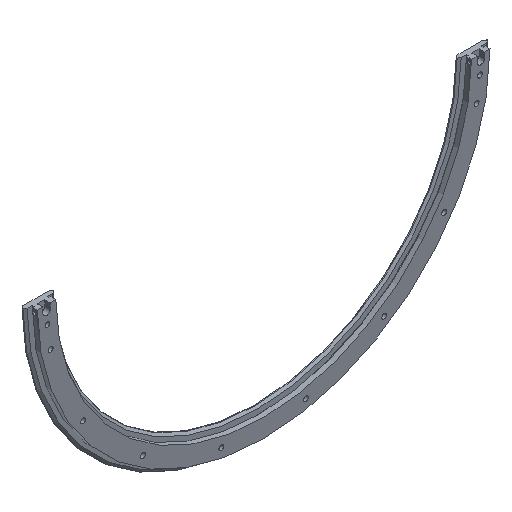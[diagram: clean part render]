
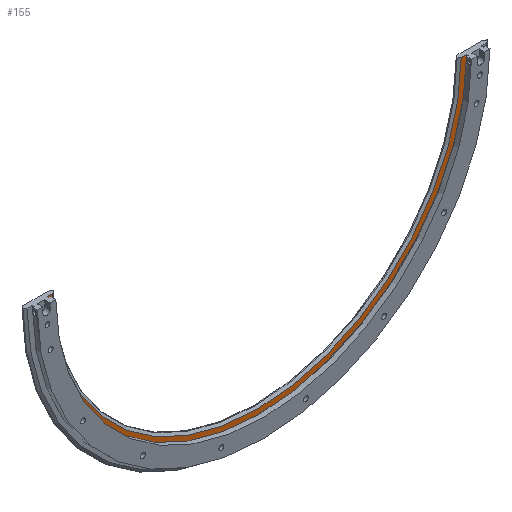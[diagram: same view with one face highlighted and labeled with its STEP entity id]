
A CAD part, isometric view. The second image highlights one B-rep face of the part: STEP entity #155.
In plain terms, the highlighted planar face has unit normal (0, -1, 0).
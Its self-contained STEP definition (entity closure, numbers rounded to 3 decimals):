
#155 = ADVANCED_FACE( '', ( #377 ), #378, .T. );
#377 = FACE_OUTER_BOUND( '', #624, .T. );
#378 = PLANE( '', #625 );
#624 = EDGE_LOOP( '', ( #1199, #1200, #1201, #1202 ) );
#625 = AXIS2_PLACEMENT_3D( '', #1203, #1204, #1205 );
#1199 = ORIENTED_EDGE( '', *, *, #1496, .T. );
#1200 = ORIENTED_EDGE( '', *, *, #1339, .T. );
#1201 = ORIENTED_EDGE( '', *, *, #1497, .F. );
#1202 = ORIENTED_EDGE( '', *, *, #1498, .T. );
#1203 = CARTESIAN_POINT( '', ( -287.914, 9.5, 0. ) );
#1204 = DIRECTION( '', ( 0., -1., 0. ) );
#1205 = DIRECTION( '', ( 0., 0., -1. ) );
#1339 = EDGE_CURVE( '', #1549, #1547, #1550, .T. );
#1496 = EDGE_CURVE( '', #1825, #1549, #1826, .T. );
#1497 = EDGE_CURVE( '', #1827, #1547, #1828, .T. );
#1498 = EDGE_CURVE( '', #1827, #1825, #1829, .T. );
#1547 = VERTEX_POINT( '', #1920 );
#1549 = VERTEX_POINT( '', #1925 );
#1550 = LINE( '', #1926, #1927 );
#1825 = VERTEX_POINT( '', #2544 );
#1826 = CIRCLE( '', #2545, 295.6 );
#1827 = VERTEX_POINT( '', #2546 );
#1828 = CIRCLE( '', #2547, 287.914 );
#1829 = LINE( '', #2548, #2549 );
#1920 = CARTESIAN_POINT( '', ( 287.904, 9.5, -2.5 ) );
#1925 = CARTESIAN_POINT( '', ( 295.589, 9.5, -2.5 ) );
#1926 = CARTESIAN_POINT( '', ( -287.914, 9.5, -2.5 ) );
#1927 = VECTOR( '', #2614, 1000. );
#2544 = CARTESIAN_POINT( '', ( -295.589, 9.5, -2.5 ) );
#2545 = AXIS2_PLACEMENT_3D( '', #2878, #2879, #2880 );
#2546 = CARTESIAN_POINT( '', ( -287.904, 9.5, -2.5 ) );
#2547 = AXIS2_PLACEMENT_3D( '', #2881, #2882, #2883 );
#2548 = CARTESIAN_POINT( '', ( -287.914, 9.5, -2.5 ) );
#2549 = VECTOR( '', #2884, 1000. );
#2614 = DIRECTION( '', ( -1., 0., 0. ) );
#2878 = CARTESIAN_POINT( '', ( 0., 9.5, 0. ) );
#2879 = DIRECTION( '', ( 0., -1., 0. ) );
#2880 = DIRECTION( '', ( 0., 0., -1. ) );
#2881 = CARTESIAN_POINT( '', ( 0., 9.5, 0. ) );
#2882 = DIRECTION( '', ( 0., -1., 0. ) );
#2883 = DIRECTION( '', ( 0., 0., -1. ) );
#2884 = DIRECTION( '', ( -1., 0., 0. ) );
